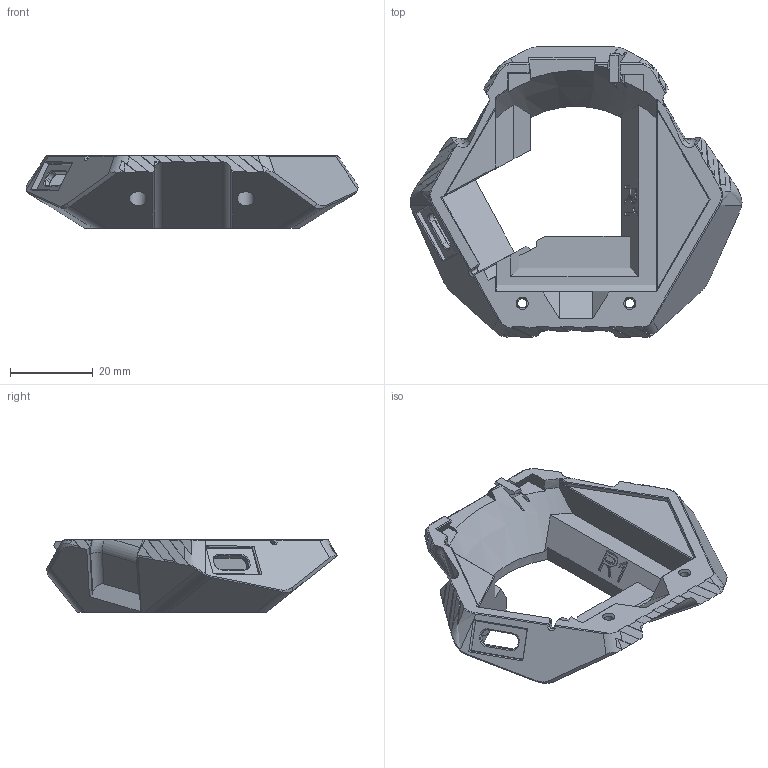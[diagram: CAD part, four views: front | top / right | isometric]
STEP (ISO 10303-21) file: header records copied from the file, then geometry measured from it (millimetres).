
FILE_DESCRIPTION(/* description */ (''),/* implementation_level */ '2;1');
FILE_NAME(/* name */ 'BUDDY CAMERA TOP R1.step',/* time_stamp */ '2025-07-01T12:54:00+02:00',/* author */ (''),/* organization */ (''),/* preprocessor_version */ 'ST-DEVELOPER v20.1',/* originating_system */ 'Autodesk Translation Framework v14.10.0.0',/* authorisation */ '');
FILE_SCHEMA (('AUTOMOTIVE_DESIGN { 1 0 10303 214 3 1 1 }'));
Length unit declared in the file: millimetre
Products named in the file (2): Dil_1; id41
Assembly tree (1 placements, depth 2):
  Dil_1
    id41
Bounding box: 80.02 x 69.99 x 17.45 mm (x, y, z)
Volume: 24706.4 mm3; surface area: 12265.6 mm2
Topology: 1 solids, 2 shells, 433 faces, 1188 edges, 766 vertices
Faces by surface type: plane 330, bspline 44, cylinder 38, cone 17, torus 4
Full cylindrical faces by diameter (mm): 1.7 x2, 2.2 x2, 4.2 x2
Entity records: 14656 total; most frequent: CARTESIAN_POINT 3917, ORIENTED_EDGE 2376, DIRECTION 1968, EDGE_CURVE 1188, LINE 916, VECTOR 916, VERTEX_POINT 766, AXIS2_PLACEMENT_3D 526
